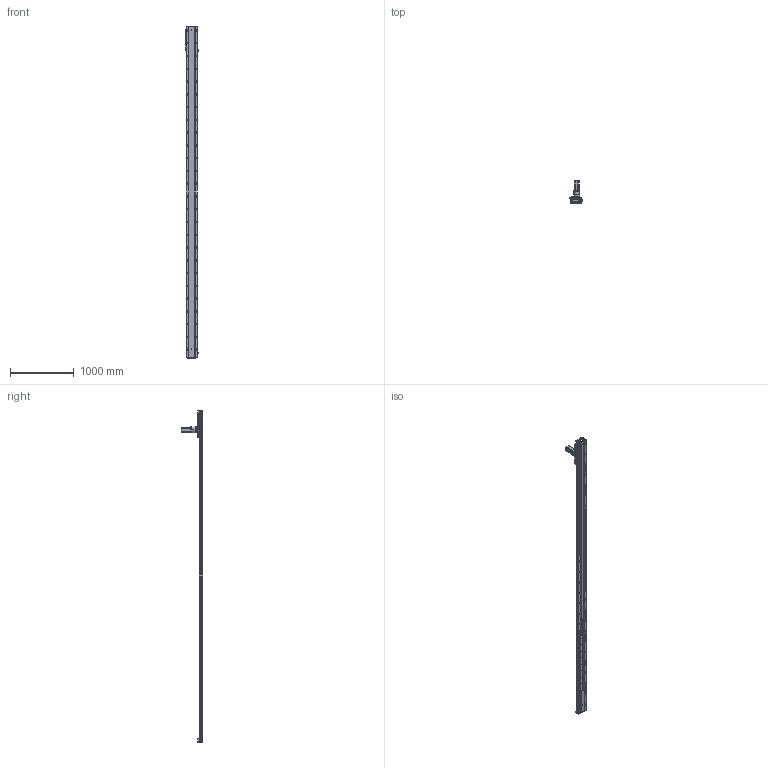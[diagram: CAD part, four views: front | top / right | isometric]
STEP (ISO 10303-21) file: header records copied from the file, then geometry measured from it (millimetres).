
FILE_DESCRIPTION (( 'STEP AP203' ), '1' );
FILE_NAME ('RY170-C-1000-UK.SLDASM_4700.step', '2021-03-03T00:51:06', ( '盈信电脑' ), ( '东莞市道滘镇水果街19号' ), 'SwSTEP 2.0', 'SolidWorks 2012', '' );
FILE_SCHEMA (( 'CONFIG_CONTROL_DESIGN' ));
Products named in the file (13): RY170-喘沭賑輸; RY170-C-1000-UK.SLDASM_4700; 左旋斜齿齿轮_M2_22齿_内孔20; 怢湛750W萇儂ㄗ80遺ㄘ; TF080等撰; RY170-喘沭滅袉蝶輸; 覜茼ん672; RY170-喘謫萇儂覃誹啣; RY170綴裔啣ㄗ蜊秶ㄘ; RY170外置感应片(200共用）; RY170-1000齿条模组型材底座_4700; RY170-1000-喘沭耀郪絳寢EGH20CA_4700; 絳寢賑輸EGH20CA
Assembly tree (22 placements, depth 2):
  RY170-C-1000-UK.SLDASM_4700
    RY170-1000齿条模组型材底座_4700
    絳寢賑輸EGH20CA  x6
    RY170-1000-喘沭耀郪絳寢EGH20CA_4700  x2
    RY170綴裔啣ㄗ蜊秶ㄘ  x2
    覜茼ん672  x3
    RY170外置感应片(200共用）
    RY170-喘謫萇儂覃誹啣
    怢湛750W萇儂ㄗ80遺ㄘ
    RY170-喘沭滅袉蝶輸  x2
    TF080等撰
    左旋斜齿齿轮_M2_22齿_内孔20
    RY170-喘沭賑輸
Bounding box: 188.7 x 343.5 x 5200 mm (x, y, z)
Volume: 24284965.4 mm3; surface area: 6453316.5 mm2
Topology: 24 solids, 24 shells, 5793 faces, 16746 edges, 10600 vertices
Faces by surface type: cylinder 2624, plane 2563, cone 552, bspline 50, torus 4
Entity records: 140426 total; most frequent: CARTESIAN_POINT 35860, ORIENTED_EDGE 22238, DIRECTION 21122, EDGE_CURVE 11119, AXIS2_PLACEMENT_3D 7987, VERTEX_POINT 7220, LINE 5148, VECTOR 5148
